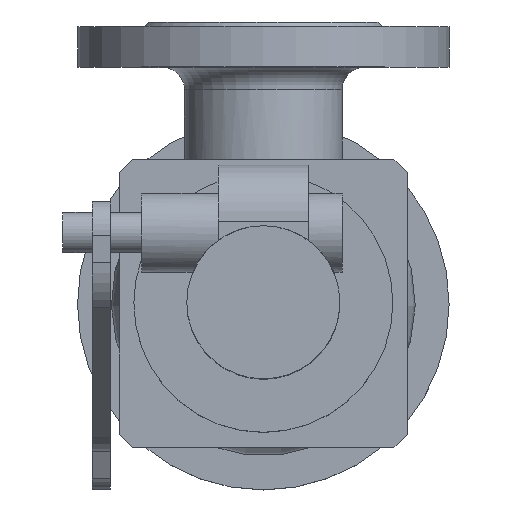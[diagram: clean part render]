
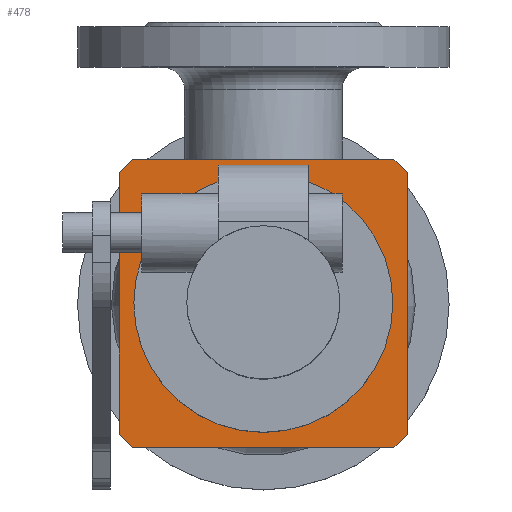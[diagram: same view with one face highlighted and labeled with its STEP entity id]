
A CAD part, top view. The second image highlights one B-rep face of the part: STEP entity #478.
In plain terms, the highlighted planar face has unit normal (0, 0, 1).
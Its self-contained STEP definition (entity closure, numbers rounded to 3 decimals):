
#478=ADVANCED_FACE('',(#1438,#1440),#1442,.T.);
#1438=FACE_BOUND('',#1439,.T.);
#1439=EDGE_LOOP('',(#2221,#2222,#2223,#2224,#2225,#2226,#2227,#2228));
#1440=FACE_BOUND('',#1441,.T.);
#1441=EDGE_LOOP('',(#2229));
#1442=PLANE('',#1443);
#1443=AXIS2_PLACEMENT_3D('',#1444,#1445,#1446);
#1444=CARTESIAN_POINT('',(0.,0.,192.));
#1445=DIRECTION('',(0.,0.,1.));
#1446=DIRECTION('',(0.,1.,0.));
#2221=ORIENTED_EDGE('',*,*,#2673,.F.);
#2222=ORIENTED_EDGE('',*,*,#2687,.T.);
#2223=ORIENTED_EDGE('',*,*,#2685,.F.);
#2224=ORIENTED_EDGE('',*,*,#2683,.T.);
#2225=ORIENTED_EDGE('',*,*,#2681,.F.);
#2226=ORIENTED_EDGE('',*,*,#2679,.T.);
#2227=ORIENTED_EDGE('',*,*,#2677,.F.);
#2228=ORIENTED_EDGE('',*,*,#2675,.T.);
#2229=ORIENTED_EDGE('',*,*,#2690,.T.);
#2673=EDGE_CURVE('',#3015,#3017,#3018,.F.);
#2675=EDGE_CURVE('',#3020,#3017,#3021,.T.);
#2677=EDGE_CURVE('',#3020,#3023,#3024,.F.);
#2679=EDGE_CURVE('',#3026,#3023,#3027,.T.);
#2681=EDGE_CURVE('',#3026,#3029,#3030,.F.);
#2683=EDGE_CURVE('',#3032,#3029,#3033,.T.);
#2685=EDGE_CURVE('',#3032,#3035,#3036,.F.);
#2687=EDGE_CURVE('',#3015,#3035,#3038,.T.);
#2690=EDGE_CURVE('',#3043,#3043,#3044,.T.);
#3015=VERTEX_POINT('',#3989);
#3017=VERTEX_POINT('',#3993);
#3018=LINE('',#3994,#3995);
#3020=VERTEX_POINT('',#4000);
#3021=LINE('',#4001,#4002);
#3023=VERTEX_POINT('',#4007);
#3024=LINE('',#4008,#4009);
#3026=VERTEX_POINT('',#4014);
#3027=LINE('',#4015,#4016);
#3029=VERTEX_POINT('',#4021);
#3030=LINE('',#4022,#4023);
#3032=VERTEX_POINT('',#4028);
#3033=LINE('',#4029,#4030);
#3035=VERTEX_POINT('',#4035);
#3036=LINE('',#4036,#4037);
#3038=LINE('',#4042,#4043);
#3043=VERTEX_POINT('',#4055);
#3044=CIRCLE('',#4056,40.);
#3989=CARTESIAN_POINT('',(64.,-58.,192.));
#3993=CARTESIAN_POINT('',(58.,-64.,192.));
#3994=CARTESIAN_POINT('',(58.,-64.,192.));
#3995=VECTOR('',#3996,1.);
#3996=DIRECTION('',(0.707,0.707,0.));
#4000=CARTESIAN_POINT('',(-58.,-64.,192.));
#4001=CARTESIAN_POINT('',(-58.,-64.,192.));
#4002=VECTOR('',#4003,1.);
#4003=DIRECTION('',(1.,0.,0.));
#4007=CARTESIAN_POINT('',(-64.,-58.,192.));
#4008=CARTESIAN_POINT('',(-64.,-58.,192.));
#4009=VECTOR('',#4010,1.);
#4010=DIRECTION('',(0.707,-0.707,0.));
#4014=CARTESIAN_POINT('',(-64.,58.,192.));
#4015=CARTESIAN_POINT('',(-64.,58.,192.));
#4016=VECTOR('',#4017,1.);
#4017=DIRECTION('',(0.,-1.,0.));
#4021=CARTESIAN_POINT('',(-58.,64.,192.));
#4022=CARTESIAN_POINT('',(-58.,64.,192.));
#4023=VECTOR('',#4024,1.);
#4024=DIRECTION('',(-0.707,-0.707,0.));
#4028=CARTESIAN_POINT('',(58.,64.,192.));
#4029=CARTESIAN_POINT('',(58.,64.,192.));
#4030=VECTOR('',#4031,1.);
#4031=DIRECTION('',(-1.,0.,0.));
#4035=CARTESIAN_POINT('',(64.,58.,192.));
#4036=CARTESIAN_POINT('',(64.,58.,192.));
#4037=VECTOR('',#4038,1.);
#4038=DIRECTION('',(-0.707,0.707,0.));
#4042=CARTESIAN_POINT('',(64.,-58.,192.));
#4043=VECTOR('',#4044,1.);
#4044=DIRECTION('',(0.,1.,0.));
#4055=CARTESIAN_POINT('',(0.,40.,192.));
#4056=AXIS2_PLACEMENT_3D('',#4057,#4058,#4059);
#4057=CARTESIAN_POINT('',(0.,0.,192.));
#4058=DIRECTION('',(0.,0.,-1.));
#4059=DIRECTION('',(0.,1.,0.));
